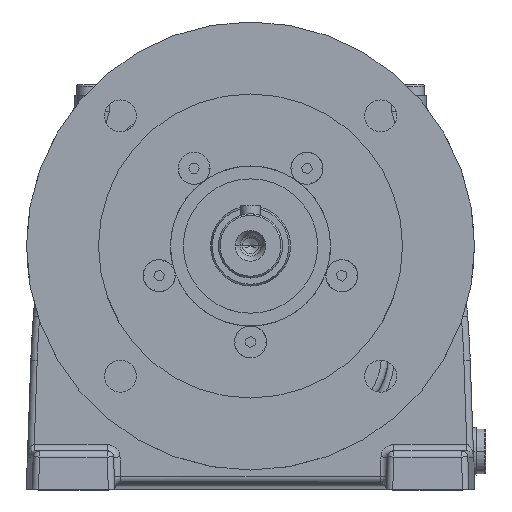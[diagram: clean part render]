
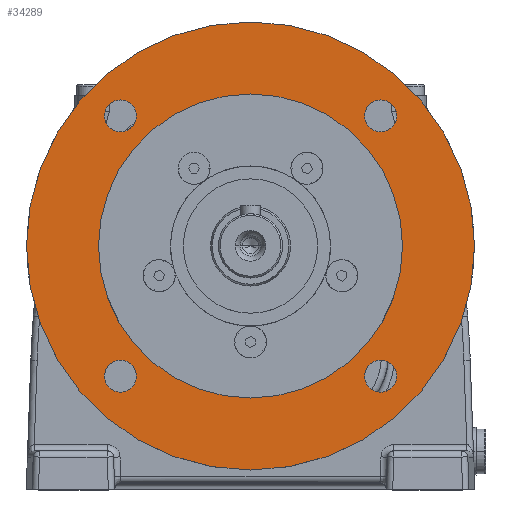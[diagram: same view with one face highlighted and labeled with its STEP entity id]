
A CAD part, top view. The second image highlights one B-rep face of the part: STEP entity #34289.
In plain terms, the highlighted planar face has unit normal (0, 0, 1).
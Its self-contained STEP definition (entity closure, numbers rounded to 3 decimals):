
#12908 = CARTESIAN_POINT ( 'NONE',  ( -47.5, 0., -3. ) ) ;
#12910 = DIRECTION ( 'NONE',  ( 1., 0., 0. ) ) ;
#12912 = DIRECTION ( 'NONE',  ( 0., 0., 1. ) ) ;
#12914 = CARTESIAN_POINT ( 'NONE',  ( 0., 0., -3. ) ) ;
#12916 = AXIS2_PLACEMENT_3D ( 'NONE', #12914, #12912, #12910 ) ;
#12917 = CIRCLE ( 'NONE', #12916, 47.5 ) ;
#12923 = CARTESIAN_POINT ( 'NONE',  ( -70., 0., -3. ) ) ;
#12936 = CIRCLE ( 'NONE', #13048, 70. ) ;
#13043 = CARTESIAN_POINT ( 'NONE',  ( 70., 0., -3. ) ) ;
#13044 = DIRECTION ( 'NONE',  ( 1., 0., 0. ) ) ;
#13045 = DIRECTION ( 'NONE',  ( 0., 0., 1. ) ) ;
#13047 = CARTESIAN_POINT ( 'NONE',  ( 0., 0., -3. ) ) ;
#13048 = AXIS2_PLACEMENT_3D ( 'NONE', #13047, #13045, #13044 ) ;
#13118 = CARTESIAN_POINT ( 'NONE',  ( 47.5, 0., -3. ) ) ;
#13175 = CARTESIAN_POINT ( 'NONE',  ( 45.659, 40.659, -3. ) ) ;
#13202 = DIRECTION ( 'NONE',  ( 0., 0., 1. ) ) ;
#13307 = CARTESIAN_POINT ( 'NONE',  ( 45.659, -40.659, -3. ) ) ;
#13308 = DIRECTION ( 'NONE',  ( 1., 0., 0. ) ) ;
#13309 = DIRECTION ( 'NONE',  ( 0., 0., 1. ) ) ;
#13310 = CARTESIAN_POINT ( 'NONE',  ( 40.659, -40.659, -3. ) ) ;
#13311 = AXIS2_PLACEMENT_3D ( 'NONE', #13310, #13309, #13308 ) ;
#13312 = CIRCLE ( 'NONE', #13311, 5. ) ;
#13345 = CARTESIAN_POINT ( 'NONE',  ( -35.659, -40.659, -3. ) ) ;
#13347 = DIRECTION ( 'NONE',  ( 1., 0., 0. ) ) ;
#13349 = DIRECTION ( 'NONE',  ( 0., 0., 1. ) ) ;
#13351 = CARTESIAN_POINT ( 'NONE',  ( -40.659, -40.659, -3. ) ) ;
#13352 = AXIS2_PLACEMENT_3D ( 'NONE', #13351, #13349, #13347 ) ;
#13354 = CIRCLE ( 'NONE', #13352, 5. ) ;
#13361 = CARTESIAN_POINT ( 'NONE',  ( -45.659, -40.659, -3. ) ) ;
#13428 = CARTESIAN_POINT ( 'NONE',  ( -35.659, 40.659, -3. ) ) ;
#13430 = DIRECTION ( 'NONE',  ( 1., 0., 0. ) ) ;
#13432 = DIRECTION ( 'NONE',  ( 0., 0., 1. ) ) ;
#13433 = CARTESIAN_POINT ( 'NONE',  ( -40.659, 40.659, -3. ) ) ;
#13435 = AXIS2_PLACEMENT_3D ( 'NONE', #13433, #13432, #13430 ) ;
#13437 = CIRCLE ( 'NONE', #13435, 5. ) ;
#13443 = CARTESIAN_POINT ( 'NONE',  ( -45.659, 40.659, -3. ) ) ;
#13457 = CARTESIAN_POINT ( 'NONE',  ( 35.659, -40.659, -3. ) ) ;
#13499 = DIRECTION ( 'NONE',  ( 1., 0., 0. ) ) ;
#13501 = DIRECTION ( 'NONE',  ( 0., 0., 1. ) ) ;
#13503 = CARTESIAN_POINT ( 'NONE',  ( 40.659, 40.659, -3. ) ) ;
#13504 = AXIS2_PLACEMENT_3D ( 'NONE', #13503, #13501, #13499 ) ;
#13505 = CIRCLE ( 'NONE', #13504, 5. ) ;
#13506 = CARTESIAN_POINT ( 'NONE',  ( 35.659, 40.659, -3. ) ) ;
#13778 = DIRECTION ( 'NONE',  ( 1., 0., 0. ) ) ;
#14041 = DIRECTION ( 'NONE',  ( 1., 0., 0. ) ) ;
#14043 = DIRECTION ( 'NONE',  ( 0., 0., 1. ) ) ;
#14044 = CARTESIAN_POINT ( 'NONE',  ( -40.659, -40.659, -3. ) ) ;
#14046 = AXIS2_PLACEMENT_3D ( 'NONE', #14044, #14043, #14041 ) ;
#14048 = CIRCLE ( 'NONE', #14046, 5. ) ;
#14137 = FACE_BOUND ( 'NONE', #34392, .T. ) ;
#14139 = FACE_BOUND ( 'NONE', #34383, .T. ) ;
#14141 = FACE_OUTER_BOUND ( 'NONE', #34262, .T. ) ;
#14143 = FACE_BOUND ( 'NONE', #34253, .T. ) ;
#14144 = FACE_BOUND ( 'NONE', #34416, .T. ) ;
#14146 = FACE_BOUND ( 'NONE', #34292, .T. ) ;
#14244 = DIRECTION ( 'NONE',  ( -1., 0., 0. ) ) ;
#14246 = DIRECTION ( 'NONE',  ( 0., 0., -1. ) ) ;
#14248 = CARTESIAN_POINT ( 'NONE',  ( 0., 47.5, -3. ) ) ;
#14249 = AXIS2_PLACEMENT_3D ( 'NONE', #14248, #14246, #14244 ) ;
#14255 = PLANE ( 'NONE',  #14249 ) ;
#14356 = CARTESIAN_POINT ( 'NONE',  ( 0., 0., -3. ) ) ;
#14357 = AXIS2_PLACEMENT_3D ( 'NONE', #14356, #13202, #13778 ) ;
#14359 = CIRCLE ( 'NONE', #14357, 47.5 ) ;
#14366 = DIRECTION ( 'NONE',  ( 1., 0., 0. ) ) ;
#14368 = DIRECTION ( 'NONE',  ( 0., 0., 1. ) ) ;
#14370 = CARTESIAN_POINT ( 'NONE',  ( 0., 0., -3. ) ) ;
#14371 = AXIS2_PLACEMENT_3D ( 'NONE', #14370, #14368, #14366 ) ;
#14373 = CIRCLE ( 'NONE', #14371, 70. ) ;
#14461 = DIRECTION ( 'NONE',  ( 1., 0., 0. ) ) ;
#14463 = DIRECTION ( 'NONE',  ( 0., 0., 1. ) ) ;
#14465 = CARTESIAN_POINT ( 'NONE',  ( -40.659, 40.659, -3. ) ) ;
#14467 = AXIS2_PLACEMENT_3D ( 'NONE', #14465, #14463, #14461 ) ;
#14469 = CIRCLE ( 'NONE', #14467, 5. ) ;
#14474 = DIRECTION ( 'NONE',  ( 1., 0., 0. ) ) ;
#14476 = DIRECTION ( 'NONE',  ( 0., 0., 1. ) ) ;
#14478 = CARTESIAN_POINT ( 'NONE',  ( 40.659, 40.659, -3. ) ) ;
#14480 = AXIS2_PLACEMENT_3D ( 'NONE', #14478, #14476, #14474 ) ;
#14481 = CIRCLE ( 'NONE', #14480, 5. ) ;
#14501 = DIRECTION ( 'NONE',  ( 1., 0., 0. ) ) ;
#14503 = DIRECTION ( 'NONE',  ( 0., 0., 1. ) ) ;
#14505 = CARTESIAN_POINT ( 'NONE',  ( 40.659, -40.659, -3. ) ) ;
#14506 = AXIS2_PLACEMENT_3D ( 'NONE', #14505, #14503, #14501 ) ;
#14513 = CIRCLE ( 'NONE', #14506, 5. ) ;
#33717 = VERTEX_POINT ( 'NONE', #12923 ) ;
#33721 = EDGE_CURVE ( 'NONE', #33778, #33723, #12917, .T. ) ;
#33723 = VERTEX_POINT ( 'NONE', #12908 ) ;
#33763 = EDGE_CURVE ( 'NONE', #33766, #33717, #12936, .T. ) ;
#33766 = VERTEX_POINT ( 'NONE', #13043 ) ;
#33778 = VERTEX_POINT ( 'NONE', #13118 ) ;
#33806 = VERTEX_POINT ( 'NONE', #13175 ) ;
#33866 = EDGE_CURVE ( 'NONE', #33932, #33868, #13312, .T. ) ;
#33868 = VERTEX_POINT ( 'NONE', #13307 ) ;
#33906 = VERTEX_POINT ( 'NONE', #13361 ) ;
#33910 = EDGE_CURVE ( 'NONE', #33906, #33912, #13354, .T. ) ;
#33912 = VERTEX_POINT ( 'NONE', #13345 ) ;
#33932 = VERTEX_POINT ( 'NONE', #13457 ) ;
#33940 = VERTEX_POINT ( 'NONE', #13443 ) ;
#33944 = EDGE_CURVE ( 'NONE', #33940, #33945, #13437, .T. ) ;
#33945 = VERTEX_POINT ( 'NONE', #13428 ) ;
#33977 = VERTEX_POINT ( 'NONE', #13506 ) ;
#33981 = EDGE_CURVE ( 'NONE', #33977, #33806, #13505, .T. ) ;
#34253 = EDGE_LOOP ( 'NONE', ( #34254, #34259 ) ) ;
#34254 = ORIENTED_EDGE ( 'NONE', *, *, #34256, .F. ) ;
#34256 = EDGE_CURVE ( 'NONE', #33912, #33906, #14048, .T. ) ;
#34259 = ORIENTED_EDGE ( 'NONE', *, *, #33910, .F. ) ;
#34262 = EDGE_LOOP ( 'NONE', ( #34264, #34266 ) ) ;
#34264 = ORIENTED_EDGE ( 'NONE', *, *, #33763, .T. ) ;
#34266 = ORIENTED_EDGE ( 'NONE', *, *, #34380, .T. ) ;
#34289 = ADVANCED_FACE ( 'NONE', ( #14146, #14144, #14143, #14141, #14139, #14137 ), #14255, .F. ) ;
#34292 = EDGE_LOOP ( 'NONE', ( #34410, #34414 ) ) ;
#34380 = EDGE_CURVE ( 'NONE', #33717, #33766, #14373, .T. ) ;
#34383 = EDGE_LOOP ( 'NONE', ( #34385, #34387 ) ) ;
#34385 = ORIENTED_EDGE ( 'NONE', *, *, #33721, .F. ) ;
#34387 = ORIENTED_EDGE ( 'NONE', *, *, #34389, .F. ) ;
#34389 = EDGE_CURVE ( 'NONE', #33723, #33778, #14359, .T. ) ;
#34392 = EDGE_LOOP ( 'NONE', ( #34394, #34398 ) ) ;
#34394 = ORIENTED_EDGE ( 'NONE', *, *, #34396, .F. ) ;
#34396 = EDGE_CURVE ( 'NONE', #33868, #33932, #14513, .T. ) ;
#34398 = ORIENTED_EDGE ( 'NONE', *, *, #33866, .F. ) ;
#34410 = ORIENTED_EDGE ( 'NONE', *, *, #34412, .F. ) ;
#34412 = EDGE_CURVE ( 'NONE', #33806, #33977, #14481, .T. ) ;
#34414 = ORIENTED_EDGE ( 'NONE', *, *, #33981, .F. ) ;
#34416 = EDGE_LOOP ( 'NONE', ( #34418, #34422 ) ) ;
#34418 = ORIENTED_EDGE ( 'NONE', *, *, #34420, .F. ) ;
#34420 = EDGE_CURVE ( 'NONE', #33945, #33940, #14469, .T. ) ;
#34422 = ORIENTED_EDGE ( 'NONE', *, *, #33944, .F. ) ;
